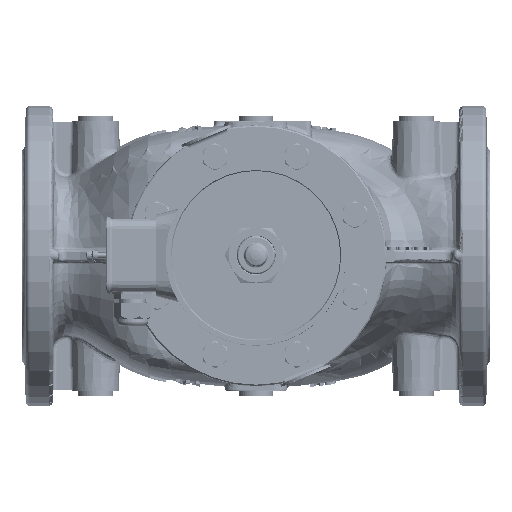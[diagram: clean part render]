
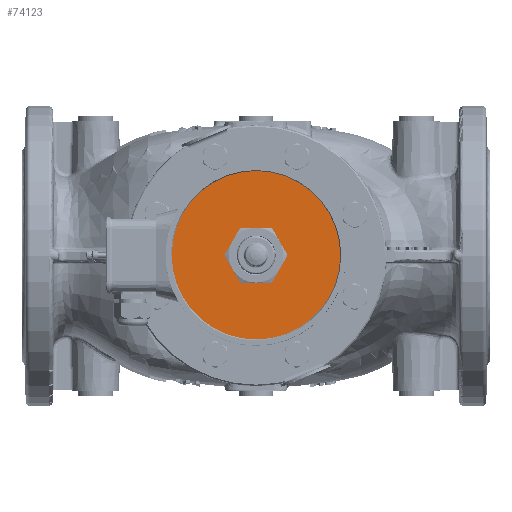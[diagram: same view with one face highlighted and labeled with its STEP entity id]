
A CAD part, top view. The second image highlights one B-rep face of the part: STEP entity #74123.
In plain terms, the highlighted planar face has unit normal (0, 0, 1).
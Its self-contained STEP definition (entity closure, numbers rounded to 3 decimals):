
#73909=CARTESIAN_POINT('',(-63.,0.,331.));
#73910=VERTEX_POINT('',#73909);
#73911=CARTESIAN_POINT('',(0.,0.,331.));
#73912=DIRECTION('',(0.0,0.0,-1.0));
#73913=DIRECTION('',(-1.0,0.0,0.0));
#73914=AXIS2_PLACEMENT_3D('',#73911,#73912,#73913);
#73915=CIRCLE('',#73914,63.);
#73916=EDGE_CURVE('',#73910,#73910,#73915,.T.);
#74059=CARTESIAN_POINT('',(-31.5,0.,331.));
#74060=DIRECTION('',(0.0,0.0,1.0));
#74061=DIRECTION('',(1.0,0.0,0.0));
#74062=AXIS2_PLACEMENT_3D('',#74059,#74060,#74061);
#74063=PLANE('',#74062);
#74064=ORIENTED_EDGE('',*,*,#73916,.F.);
#74065=EDGE_LOOP('',(#74064));
#74066=FACE_OUTER_BOUND('',#74065,.T.);
#74067=CARTESIAN_POINT('',(-17.754,-10.25,331.));
#74068=VERTEX_POINT('',#74067);
#74069=CARTESIAN_POINT('',(-17.754,10.25,331.));
#74070=VERTEX_POINT('',#74069);
#74071=CARTESIAN_POINT('',(0.,0.,331.));
#74072=DIRECTION('',(0.0,0.0,-1.0));
#74073=DIRECTION('',(-1.0,0.0,0.0));
#74074=AXIS2_PLACEMENT_3D('',#74071,#74072,#74073);
#74075=CIRCLE('',#74074,20.5);
#74076=EDGE_CURVE('',#74068,#74070,#74075,.T.);
#74077=ORIENTED_EDGE('',*,*,#74076,.T.);
#74078=CARTESIAN_POINT('',(0.,20.5,331.));
#74079=VERTEX_POINT('',#74078);
#74080=CARTESIAN_POINT('',(0.,0.,331.));
#74081=DIRECTION('',(0.0,0.0,-1.0));
#74082=DIRECTION('',(-1.0,0.0,0.0));
#74083=AXIS2_PLACEMENT_3D('',#74080,#74081,#74082);
#74084=CIRCLE('',#74083,20.5);
#74085=EDGE_CURVE('',#74070,#74079,#74084,.T.);
#74086=ORIENTED_EDGE('',*,*,#74085,.T.);
#74087=CARTESIAN_POINT('',(17.754,10.25,331.));
#74088=VERTEX_POINT('',#74087);
#74089=CARTESIAN_POINT('',(0.,0.,331.));
#74090=DIRECTION('',(0.0,0.0,-1.0));
#74091=DIRECTION('',(-1.0,0.0,0.0));
#74092=AXIS2_PLACEMENT_3D('',#74089,#74090,#74091);
#74093=CIRCLE('',#74092,20.5);
#74094=EDGE_CURVE('',#74079,#74088,#74093,.T.);
#74095=ORIENTED_EDGE('',*,*,#74094,.T.);
#74096=CARTESIAN_POINT('',(17.754,-10.25,331.));
#74097=VERTEX_POINT('',#74096);
#74098=CARTESIAN_POINT('',(0.,0.,331.));
#74099=DIRECTION('',(0.0,0.0,-1.0));
#74100=DIRECTION('',(-1.0,0.0,0.0));
#74101=AXIS2_PLACEMENT_3D('',#74098,#74099,#74100);
#74102=CIRCLE('',#74101,20.5);
#74103=EDGE_CURVE('',#74088,#74097,#74102,.T.);
#74104=ORIENTED_EDGE('',*,*,#74103,.T.);
#74105=CARTESIAN_POINT('',(0.,-20.5,331.));
#74106=VERTEX_POINT('',#74105);
#74107=CARTESIAN_POINT('',(0.,0.,331.));
#74108=DIRECTION('',(0.0,0.0,-1.0));
#74109=DIRECTION('',(-1.0,0.0,0.0));
#74110=AXIS2_PLACEMENT_3D('',#74107,#74108,#74109);
#74111=CIRCLE('',#74110,20.5);
#74112=EDGE_CURVE('',#74097,#74106,#74111,.T.);
#74113=ORIENTED_EDGE('',*,*,#74112,.T.);
#74114=CARTESIAN_POINT('',(0.,0.,331.));
#74115=DIRECTION('',(0.0,0.0,-1.0));
#74116=DIRECTION('',(-1.0,0.0,0.0));
#74117=AXIS2_PLACEMENT_3D('',#74114,#74115,#74116);
#74118=CIRCLE('',#74117,20.5);
#74119=EDGE_CURVE('',#74106,#74068,#74118,.T.);
#74120=ORIENTED_EDGE('',*,*,#74119,.T.);
#74121=EDGE_LOOP('',(#74077,#74086,#74095,#74104,#74113,#74120));
#74122=FACE_BOUND('',#74121,.T.);
#74123=ADVANCED_FACE('',(#74066,#74122),#74063,.T.);
